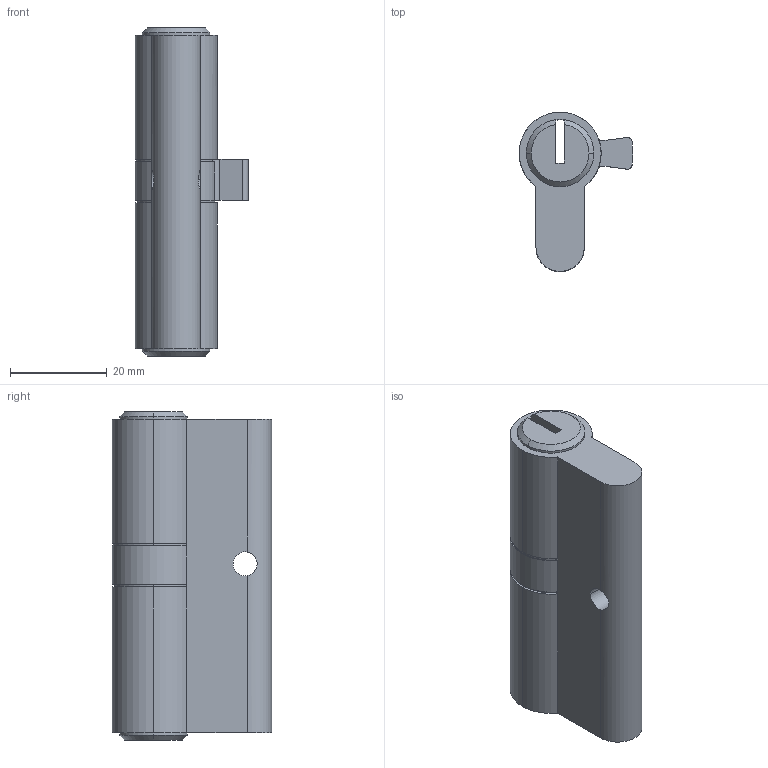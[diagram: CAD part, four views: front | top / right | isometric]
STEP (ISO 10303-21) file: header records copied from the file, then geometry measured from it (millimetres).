
FILE_DESCRIPTION (( 'STEP AP214' ), '1' );
FILE_NAME ('TPL-H-EU-516-L 29Oct2024.STEP', '2024-10-29T22:22:56', ( '' ), ( '' ), 'SwSTEP 2.0', 'SolidWorks 2023', '' );
FILE_SCHEMA (( 'AUTOMOTIVE_DESIGN' ));
Length unit declared in the file: millimetre
Products named in the file (1): TPL-H-EU-516-L 29Oct2024
Bounding box: 23.58 x 33 x 68 mm (x, y, z)
Volume: 24231.6 mm3; surface area: 8106 mm2
Topology: 1 solids, 1 shells, 51 faces, 141 edges, 88 vertices
Faces by surface type: cylinder 29, plane 16, cone 6
Entity records: 1740 total; most frequent: CARTESIAN_POINT 357, DIRECTION 307, ORIENTED_EDGE 282, EDGE_CURVE 141, AXIS2_PLACEMENT_3D 122, VERTEX_POINT 88, CIRCLE 70, VECTOR 63
